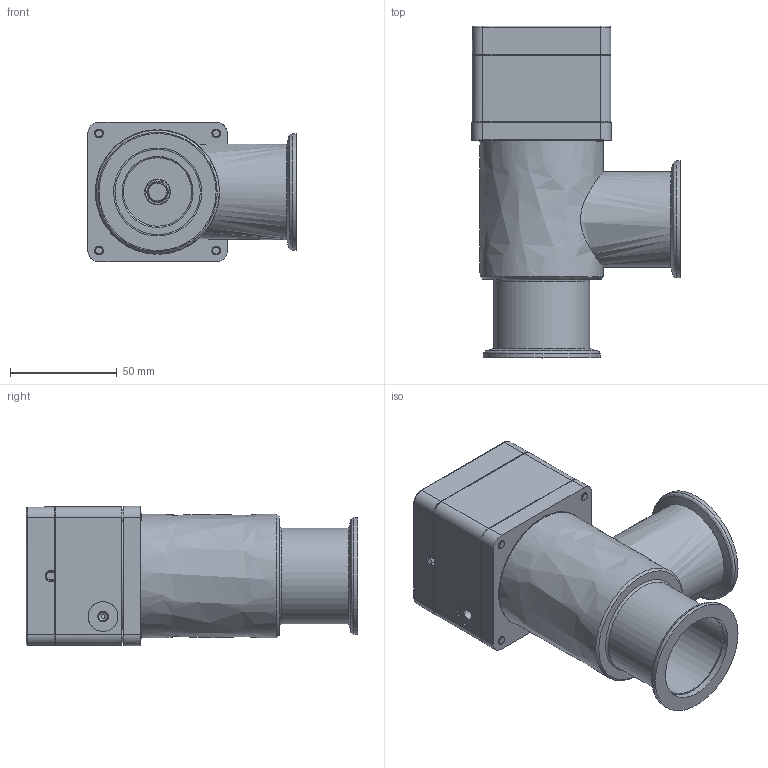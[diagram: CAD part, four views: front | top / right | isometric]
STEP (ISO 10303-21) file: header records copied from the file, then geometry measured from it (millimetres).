
FILE_DESCRIPTION((''),'2;1');
FILE_NAME('C:\Temp\ideas\247969.stp','2005-10-14T11:17:23',('User'),( 'SDRC'),'I-DEAS Master Series 9','UNIX','Yes');
FILE_SCHEMA(('CONFIG_CONTROL_DESIGN'));
Length unit declared in the file: millimetre
Assembly tree (13 placements, depth 0):
Bounding box: 97.7 x 155.7 x 65.4 mm (x, y, z)
Volume: 151498.9 mm3; surface area: 112966.2 mm2
Topology: 20 solids, 20 shells, 503 faces, 1259 edges, 816 vertices
Faces by surface type: bspline 503
Entity records: 15994 total; most frequent: CARTESIAN_POINT 8022, ORIENTED_EDGE 2210, EDGE_CURVE 1105, VERTEX_POINT 717, EDGE_LOOP 482, B_SPLINE_CURVE_WITH_KNOTS 469, FACE_OUTER_BOUND 428, ADVANCED_FACE 428
